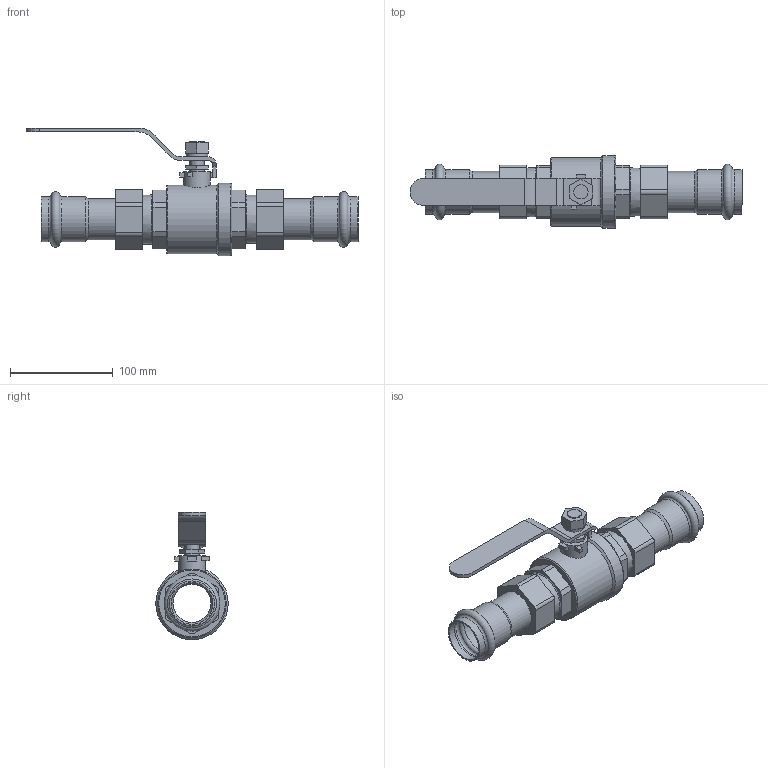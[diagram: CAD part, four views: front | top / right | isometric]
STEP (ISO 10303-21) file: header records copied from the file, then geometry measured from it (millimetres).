
FILE_DESCRIPTION(/* description */ (''),/* implementation_level */ '2;1');
FILE_NAME(/* name */ '51352040001.stp',/* time_stamp */ '2022-06-28T15:45:00+08:00',/* author */ (''),/* organization */ (''),/* preprocessor_version */ 'ST-DEVELOPER v11',/* originating_system */ 'SIEMENS PLM Software NX 7.5',/* authorisation */ '');
FILE_SCHEMA (('CONFIG_CONTROL_DESIGN'));
Length unit declared in the file: millimetre
Products named in the file (1): AdmiB4625zrg
Bounding box: 322.75 x 70.5 x 123.75 mm (x, y, z)
Volume: 333353.4 mm3; surface area: 132721.3 mm2
Topology: 5 solids, 5 shells, 198 faces, 456 edges, 291 vertices
Faces by surface type: plane 112, cylinder 51, torus 28, cone 7
Full cylindrical faces by diameter (mm): 13.8 x3, 21.2 x1, 26 x1, 37 x2, 37.9 x1, 40 x2, 40.45 x2, 40.5 x2, 40.6 x4, 41.65 x2, 43.6 x4, 44.5 x2, 44.85 x2, 66.6 x1, 70.5 x1
Entity records: 5324 total; most frequent: DIRECTION 920, CARTESIAN_POINT 914, ORIENTED_EDGE 770, EDGE_CURVE 385, AXIS2_PLACEMENT_3D 341, EDGE_LOOP 296, VERTEX_POINT 285, LINE 238
